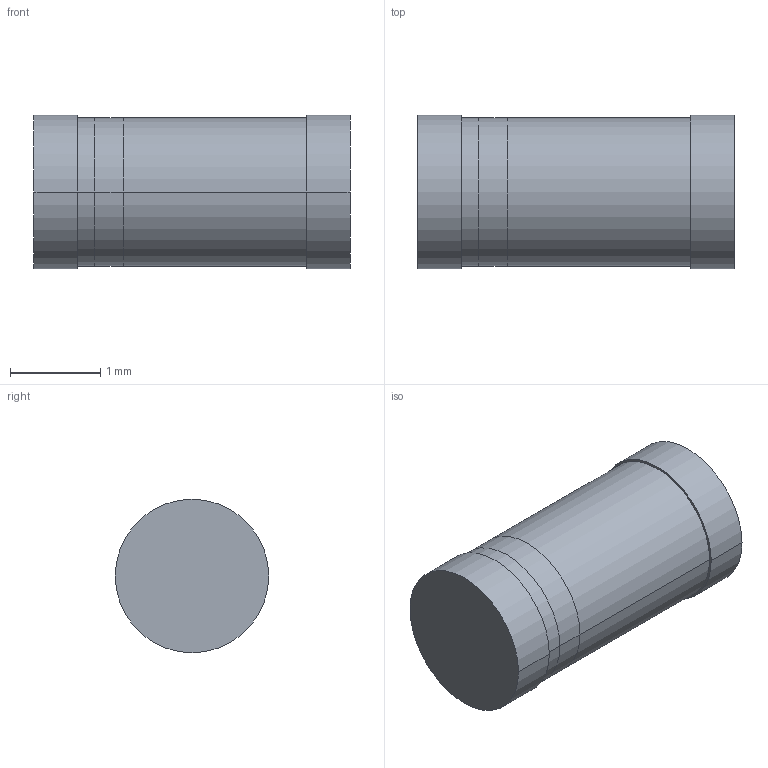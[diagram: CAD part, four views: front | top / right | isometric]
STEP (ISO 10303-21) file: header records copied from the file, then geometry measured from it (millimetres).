
FILE_DESCRIPTION (( 'STEP AP214' ), '1' );
FILE_NAME ('JANTX1N5523BUR-1.STEP', '2023-03-31T22:48:50', ( '' ), ( '' ), 'SwSTEP 2.0', 'SolidWorks 2021', '' );
FILE_SCHEMA (( 'AUTOMOTIVE_DESIGN' ));
Length unit declared in the file: inch
Products named in the file (1): JANTX1N5523BUR-1
Bounding box: 3.51 x 1.7 x 1.7 mm (x, y, z)
Volume: 7.6 mm3; surface area: 40.3 mm2
Topology: 5 solids, 5 shells, 20 faces, 30 edges, 20 vertices
Faces by surface type: cylinder 10, plane 10
Entity records: 538 total; most frequent: DIRECTION 92, CARTESIAN_POINT 71, ORIENTED_EDGE 60, AXIS2_PLACEMENT_3D 41, EDGE_CURVE 30, FACE_OUTER_BOUND 20, EDGE_LOOP 20, CIRCLE 20
